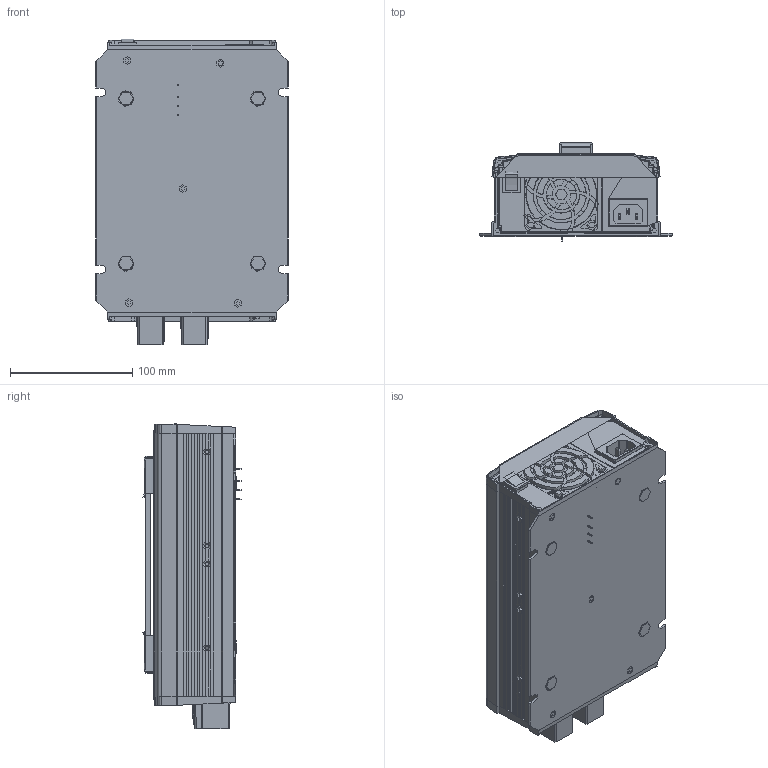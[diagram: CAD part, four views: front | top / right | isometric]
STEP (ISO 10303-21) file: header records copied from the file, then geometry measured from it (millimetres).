
FILE_DESCRIPTION(('Creo Elements/Direct Modeling STEP Export'),'2;1');
FILE_NAME('NPP-750.stp','2021-12-28T11:22:57',(''),(''),'PTC Creo Elements/Direct Modeling STEP processor for AP214 (Solid Model)','PTC Creo Elements/Direct Modeling 19.0A 04-Oct-2014 (C) Parametric Technology GmbH','');
FILE_SCHEMA(('AUTOMOTIVE_DESIGN { 1 0 10303 214 1 1 1 1 }'));
Length unit declared in the file: millimetre
Products named in the file (121): 1HH156.5x34x0.3; 1HH144x58x0.3; 1HH179x23x0.3; 1HH2NPB-750A; 1HH131x22x0.3; 1HH134x37.6x0.3; 1HH229x54x0.25; 1HH229x54x0.25-1; 1HH2; 1HH149x58x0.3.1; 1HH; TO220-1.2.1.1.1.1.1; TO220-1.2.1.1.1.1; TO220-1.2.1.1; TO220-1.2.1.1.1; TO220-1.2.1.1.1.1.2; TO220-1.2.1.1.1.1.2.1; TO220-1.2.1.1.1.1.2.1.1; TO220-1.2.1.1.1.1.2.1.1.1; TO220-1.2.1.1.1.1.2.1.1.1.1; TO220-1.2.1.1.1.1.2.1.1.1.1.1; GBJ.1; MHS041A; MHS041A.1; MOS; PCBA; PCBB; PCBC; PCB; 温度开关; TU-301-SP-STA715_23.PRT; TN-M10_16.PRT; GP-TU301-Y5S_3.PRT; GP-TU301-Y10L_3.PRT; GP-TU-301-A4_3_1.PRT; GP-TU-301-A4_3_2.PRT; GP-TU-301-A4_3.ASM; GP-TU301-D4_3.PRT; TU-301-SP-STA715-AD4-M10_ASM_5.ASM; TU-301-SP-STA715-AD4-M10_ASM.stp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
Assembly tree (124 placements, depth 6):
  NPP-750
    NPB-750面板-0511
      1xx3npp-750-o-20210511-1.stp
        1xx3npp-750-o-0511_stp
      1xx3NPB-750-I-0507
    NPPPCBB装配1.1
      FT-63EP.1.1
      LED1.1
      FT-63EP.1
      DH2L-14
        2.7
        1.7
        2.6
        2.3
        2.4
        2.5
        2.1
        2.2
        1.6
        1.1
        1.2
        1.3
        1.5
        1.4
        p1
    1GG
      585B.1
        585B
      585B
        585B.1
        585B
        585B.2
      1GG4CU-SZ033.1
      1GG4CU-SZ033
      1GG1HS-SZ143-1
      1GG1HS-SZ143
      1GG1HS-SZ126
        PIN2-2.1
        HS-SZ126
      1GG1HS-SZ125
        PIN2-2
        HS-SZ125
      1GG1HS-SZ128
        PIN2-2.2.1
        PIN2-2.2
        HS-SZ128
      1GG1HS-SZ127.2
        PIN2-2.1
        HS-SZ127
    CASE
      __.stp
        _X2_628A624B_X0_.ASM
          GUWEI1_1.PRT
          GUWEI1.PRT
          174.PRT
      FOOT_PAD_7_1.PRT.31  x4
      下盖1
        M3-6L.4
        M3-6L.3
        下盖11
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Bounding box: 158 x 80.35 x 250.42 mm (x, y, z)
Topology: 100 solids, 104 shells, 3613 faces, 9515 edges, 6228 vertices
Faces by surface type: plane 2338, cylinder 808, cone 313, torus 82, bspline 71, extrusion 1
Full cylindrical faces by diameter (mm): 0.063 x1
Entity records: 117239 total; most frequent: CARTESIAN_POINT 26611, ORIENTED_EDGE 18870, DIRECTION 17014, EDGE_CURVE 9429, VECTOR 6498, LINE 6497, VERTEX_POINT 6171, AXIS2_PLACEMENT_3D 5258
